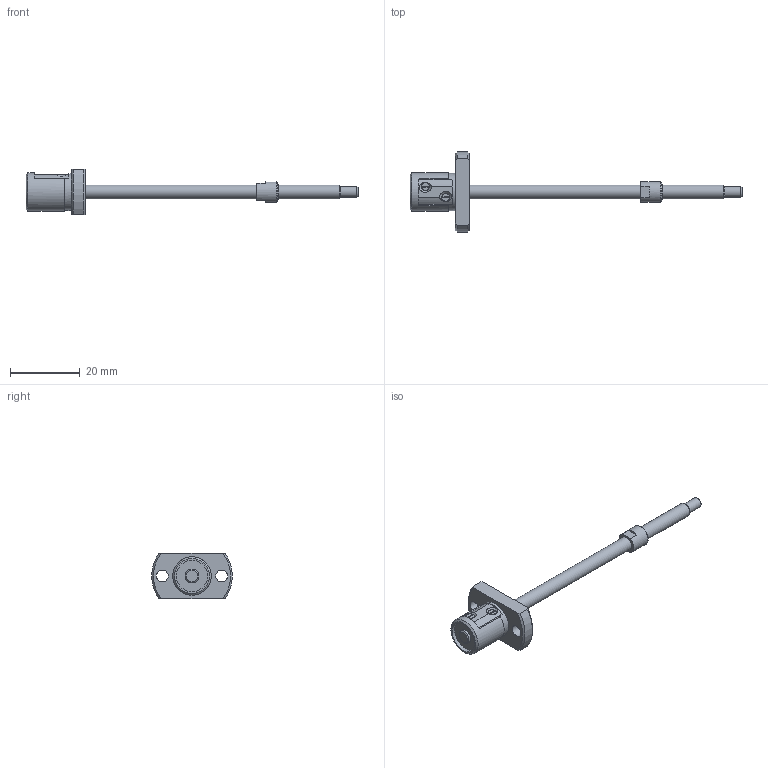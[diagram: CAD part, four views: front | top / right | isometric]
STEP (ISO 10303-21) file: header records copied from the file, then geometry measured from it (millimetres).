
FILE_DESCRIPTION( ( 'STEP AP203' ), '1' );
FILE_NAME( 'e:/temp/worker_93/temp/exporttempdir_4492_1396_G1Pk3/format_0/SG0401-063R095C3A1X(0).stp', '2021-10-19T00:26:28', ( 'License CC BY-ND 4.0' ), ( 'CADENAS' ), ' ', 'PARTsolutions', ' ' );
FILE_SCHEMA( ( 'CONFIG_CONTROL_DESIGN' ) );
Length unit declared in the file: millimetre
Products named in the file (3): SG0401-063R095C3A1X(0); _SG0401-63R95C3A_shaft; _SG0401_nut
Assembly tree (2 placements, depth 2):
  SG0401-063R095C3A1X(0)
    _SG0401-63R95C3A_shaft
    _SG0401_nut
Bounding box: 95 x 22.92 x 13 mm (x, y, z)
Volume: 3173.9 mm3; surface area: 2813.1 mm2
Topology: 2 solids, 2 shells, 71 faces, 174 edges, 115 vertices
Faces by surface type: plane 34, cylinder 23, cone 13, torus 1
Full cylindrical faces by diameter (mm): 3 x1, 3.4 x2, 4 x3, 6 x1, 9 x2, 10.6 x1, 11 x1
Entity records: 2078 total; most frequent: CARTESIAN_POINT 400, DIRECTION 340, ORIENTED_EDGE 286, EDGE_CURVE 143, AXIS2_PLACEMENT_3D 141, EDGE_LOOP 106, VERTEX_POINT 105, FACE_OUTER_BOUND 83
